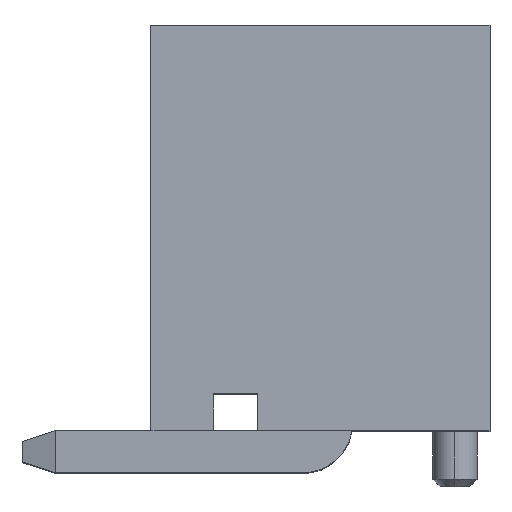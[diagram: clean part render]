
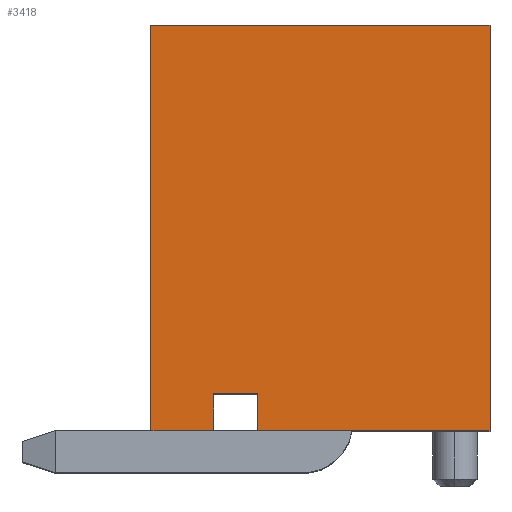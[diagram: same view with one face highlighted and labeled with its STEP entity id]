
A CAD part, top view. The second image highlights one B-rep face of the part: STEP entity #3418.
In plain terms, the highlighted planar face has unit normal (0, 0, 1).
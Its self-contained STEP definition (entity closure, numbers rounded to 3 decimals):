
#15 = EDGE_CURVE ( 'NONE', #5329, #4609, #1320, .T. ) ;
#273 = EDGE_CURVE ( 'NONE', #4293, #4567, #5554, .T. ) ;
#307 = ORIENTED_EDGE ( 'NONE', *, *, #2844, .T. ) ;
#523 = EDGE_CURVE ( 'NONE', #904, #2334, #843, .T. ) ;
#843 = LINE ( 'NONE', #2815, #6121 ) ;
#849 = VECTOR ( 'NONE', #1372, 1000. ) ;
#870 = CARTESIAN_POINT ( 'NONE',  ( -2., -1.861, 4.9 ) ) ;
#904 = VERTEX_POINT ( 'NONE', #1561 ) ;
#941 = EDGE_CURVE ( 'NONE', #5171, #4449, #968, .T. ) ;
#968 = LINE ( 'NONE', #5095, #3435 ) ;
#1026 = ORIENTED_EDGE ( 'NONE', *, *, #1844, .T. ) ;
#1074 = VECTOR ( 'NONE', #3830, 1000. ) ;
#1117 = LINE ( 'NONE', #4524, #2798 ) ;
#1253 = ORIENTED_EDGE ( 'NONE', *, *, #523, .T. ) ;
#1320 = LINE ( 'NONE', #2868, #1074 ) ;
#1372 = DIRECTION ( 'NONE',  ( 0., 1., 0. ) ) ;
#1509 = DIRECTION ( 'NONE',  ( 0., 1., 0. ) ) ;
#1561 = CARTESIAN_POINT ( 'NONE',  ( -0.8, -2.861, 4.9 ) ) ;
#1782 = DIRECTION ( 'NONE',  ( 1., 0., 0. ) ) ;
#1819 = DIRECTION ( 'NONE',  ( 1., 0., 0. ) ) ;
#1844 = EDGE_CURVE ( 'NONE', #4449, #5329, #1117, .T. ) ;
#1860 = LINE ( 'NONE', #4362, #849 ) ;
#2334 = VERTEX_POINT ( 'NONE', #5826 ) ;
#2369 = CARTESIAN_POINT ( 'NONE',  ( -0.8, -1.861, 4.9 ) ) ;
#2506 = EDGE_CURVE ( 'NONE', #4567, #4609, #4529, .T. ) ;
#2540 = ORIENTED_EDGE ( 'NONE', *, *, #15, .T. ) ;
#2764 = EDGE_CURVE ( 'NONE', #904, #4293, #1860, .T. ) ;
#2798 = VECTOR ( 'NONE', #3112, 1000. ) ;
#2815 = CARTESIAN_POINT ( 'NONE',  ( -3.7, -2.861, 4.9 ) ) ;
#2844 = EDGE_CURVE ( 'NONE', #2334, #5171, #5494, .T. ) ;
#2853 = ORIENTED_EDGE ( 'NONE', *, *, #273, .F. ) ;
#2868 = CARTESIAN_POINT ( 'NONE',  ( -3.7, -2.861, 4.9 ) ) ;
#2871 = ORIENTED_EDGE ( 'NONE', *, *, #2764, .F. ) ;
#3073 = FACE_OUTER_BOUND ( 'NONE', #4872, .T. ) ;
#3084 = CARTESIAN_POINT ( 'NONE',  ( 5.5, 8.139, 4.9 ) ) ;
#3112 = DIRECTION ( 'NONE',  ( 0., -1., 0. ) ) ;
#3418 = ADVANCED_FACE ( 'NONE', ( #3073 ), #5040, .F. ) ;
#3435 = VECTOR ( 'NONE', #6066, 1000. ) ;
#3488 = CARTESIAN_POINT ( 'NONE',  ( -2., -2.861, 4.9 ) ) ;
#3649 = VECTOR ( 'NONE', #4549, 1000. ) ;
#3830 = DIRECTION ( 'NONE',  ( 1., 0., 0. ) ) ;
#4134 = ORIENTED_EDGE ( 'NONE', *, *, #2506, .F. ) ;
#4293 = VERTEX_POINT ( 'NONE', #2369 ) ;
#4362 = CARTESIAN_POINT ( 'NONE',  ( -0.8, -2.861, 4.9 ) ) ;
#4449 = VERTEX_POINT ( 'NONE', #4804 ) ;
#4524 = CARTESIAN_POINT ( 'NONE',  ( -3.7, 8.139, 4.9 ) ) ;
#4529 = LINE ( 'NONE', #5991, #5894 ) ;
#4549 = DIRECTION ( 'NONE',  ( -1., 0., 0. ) ) ;
#4567 = VERTEX_POINT ( 'NONE', #870 ) ;
#4609 = VERTEX_POINT ( 'NONE', #3488 ) ;
#4804 = CARTESIAN_POINT ( 'NONE',  ( -3.7, 8.139, 4.9 ) ) ;
#4872 = EDGE_LOOP ( 'NONE', ( #2853, #2871, #1253, #307, #5301, #1026, #2540, #4134 ) ) ;
#5040 = PLANE ( 'NONE',  #6179 ) ;
#5095 = CARTESIAN_POINT ( 'NONE',  ( -3.7, 8.139, 4.9 ) ) ;
#5158 = DIRECTION ( 'NONE',  ( 0., 0., -1. ) ) ;
#5171 = VERTEX_POINT ( 'NONE', #3084 ) ;
#5290 = CARTESIAN_POINT ( 'NONE',  ( 0., 0., 4.9 ) ) ;
#5301 = ORIENTED_EDGE ( 'NONE', *, *, #941, .T. ) ;
#5329 = VERTEX_POINT ( 'NONE', #6264 ) ;
#5471 = DIRECTION ( 'NONE',  ( 0., -1., 0. ) ) ;
#5494 = LINE ( 'NONE', #5983, #6100 ) ;
#5554 = LINE ( 'NONE', #5979, #3649 ) ;
#5826 = CARTESIAN_POINT ( 'NONE',  ( 5.5, -2.861, 4.9 ) ) ;
#5894 = VECTOR ( 'NONE', #5471, 1000. ) ;
#5979 = CARTESIAN_POINT ( 'NONE',  ( -2., -1.861, 4.9 ) ) ;
#5983 = CARTESIAN_POINT ( 'NONE',  ( 5.5, 8.139, 4.9 ) ) ;
#5991 = CARTESIAN_POINT ( 'NONE',  ( -2., -2.861, 4.9 ) ) ;
#6066 = DIRECTION ( 'NONE',  ( -1., 0., 0. ) ) ;
#6100 = VECTOR ( 'NONE', #1509, 1000. ) ;
#6121 = VECTOR ( 'NONE', #1819, 1000. ) ;
#6179 = AXIS2_PLACEMENT_3D ( 'NONE', #5290, #5158, #1782 ) ;
#6264 = CARTESIAN_POINT ( 'NONE',  ( -3.7, -2.861, 4.9 ) ) ;
